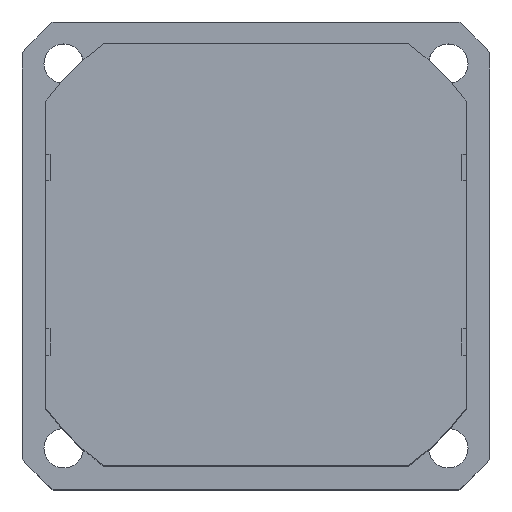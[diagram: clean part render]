
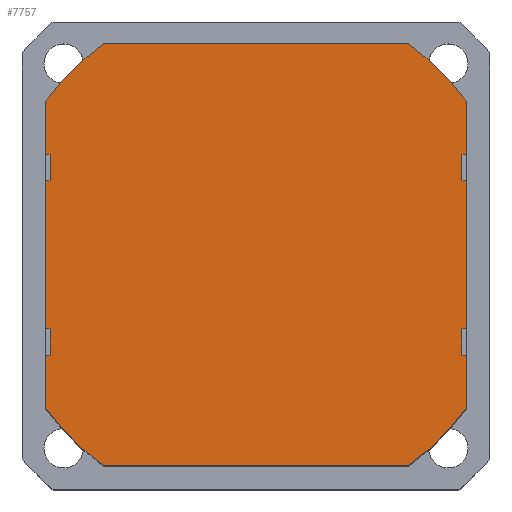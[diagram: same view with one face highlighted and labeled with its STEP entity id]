
A CAD part, top view. The second image highlights one B-rep face of the part: STEP entity #7757.
In plain terms, the highlighted planar face has unit normal (0, 0, 1).
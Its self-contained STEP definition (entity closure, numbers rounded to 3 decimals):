
#1864=CIRCLE('',#8362,79.);
#1865=CIRCLE('',#8363,79.);
#1866=CIRCLE('',#8364,79.);
#1867=CIRCLE('',#8365,79.);
#2377=VERTEX_POINT('',#11140);
#2378=VERTEX_POINT('',#11141);
#2379=VERTEX_POINT('',#11143);
#2380=VERTEX_POINT('',#11145);
#2381=VERTEX_POINT('',#11147);
#2382=VERTEX_POINT('',#11149);
#2383=VERTEX_POINT('',#11151);
#2384=VERTEX_POINT('',#11153);
#2385=VERTEX_POINT('',#11155);
#2386=VERTEX_POINT('',#11157);
#2387=VERTEX_POINT('',#11159);
#2388=VERTEX_POINT('',#11161);
#2389=VERTEX_POINT('',#11163);
#2390=VERTEX_POINT('',#11165);
#2391=VERTEX_POINT('',#11167);
#2392=VERTEX_POINT('',#11169);
#2393=VERTEX_POINT('',#11171);
#2394=VERTEX_POINT('',#11173);
#2395=VERTEX_POINT('',#11175);
#2396=VERTEX_POINT('',#11177);
#2397=VERTEX_POINT('',#11179);
#2398=VERTEX_POINT('',#11181);
#2399=VERTEX_POINT('',#11183);
#2400=VERTEX_POINT('',#11185);
#3121=LINE('',#11139,#9239);
#3122=LINE('',#11142,#9240);
#3123=LINE('',#11144,#9241);
#3124=LINE('',#11146,#9242);
#3125=LINE('',#11150,#9243);
#3126=LINE('',#11154,#9244);
#3127=LINE('',#11156,#9245);
#3128=LINE('',#11158,#9246);
#3129=LINE('',#11160,#9247);
#3130=LINE('',#11162,#9248);
#3131=LINE('',#11164,#9249);
#3132=LINE('',#11166,#9250);
#3133=LINE('',#11168,#9251);
#3134=LINE('',#11170,#9252);
#3135=LINE('',#11174,#9253);
#3136=LINE('',#11178,#9254);
#3137=LINE('',#11180,#9255);
#3138=LINE('',#11182,#9256);
#3139=LINE('',#11184,#9257);
#3140=LINE('',#11186,#9258);
#3771=EDGE_CURVE('',#2377,#2378,#3121,.T.);
#3772=EDGE_CURVE('',#2379,#2377,#3122,.T.);
#3773=EDGE_CURVE('',#2380,#2379,#3123,.T.);
#3774=EDGE_CURVE('',#2381,#2380,#3124,.T.);
#3775=EDGE_CURVE('',#2382,#2381,#1864,.T.);
#3776=EDGE_CURVE('',#2383,#2382,#3125,.T.);
#3777=EDGE_CURVE('',#2384,#2383,#1865,.T.);
#3778=EDGE_CURVE('',#2385,#2384,#3126,.T.);
#3779=EDGE_CURVE('',#2386,#2385,#3127,.T.);
#3780=EDGE_CURVE('',#2387,#2386,#3128,.T.);
#3781=EDGE_CURVE('',#2388,#2387,#3129,.T.);
#3782=EDGE_CURVE('',#2389,#2388,#3130,.T.);
#3783=EDGE_CURVE('',#2390,#2389,#3131,.T.);
#3784=EDGE_CURVE('',#2391,#2390,#3132,.T.);
#3785=EDGE_CURVE('',#2392,#2391,#3133,.T.);
#3786=EDGE_CURVE('',#2393,#2392,#3134,.T.);
#3787=EDGE_CURVE('',#2394,#2393,#1866,.T.);
#3788=EDGE_CURVE('',#2395,#2394,#3135,.T.);
#3789=EDGE_CURVE('',#2396,#2395,#1867,.T.);
#3790=EDGE_CURVE('',#2397,#2396,#3136,.T.);
#3791=EDGE_CURVE('',#2398,#2397,#3137,.T.);
#3792=EDGE_CURVE('',#2399,#2398,#3138,.T.);
#3793=EDGE_CURVE('',#2400,#2399,#3139,.T.);
#3794=EDGE_CURVE('',#2378,#2400,#3140,.T.);
#4983=ORIENTED_EDGE('',*,*,#3771,.F.);
#4984=ORIENTED_EDGE('',*,*,#3772,.F.);
#4985=ORIENTED_EDGE('',*,*,#3773,.F.);
#4986=ORIENTED_EDGE('',*,*,#3774,.F.);
#4987=ORIENTED_EDGE('',*,*,#3775,.F.);
#4988=ORIENTED_EDGE('',*,*,#3776,.F.);
#4989=ORIENTED_EDGE('',*,*,#3777,.F.);
#4990=ORIENTED_EDGE('',*,*,#3778,.F.);
#4991=ORIENTED_EDGE('',*,*,#3779,.F.);
#4992=ORIENTED_EDGE('',*,*,#3780,.F.);
#4993=ORIENTED_EDGE('',*,*,#3781,.F.);
#4994=ORIENTED_EDGE('',*,*,#3782,.F.);
#4995=ORIENTED_EDGE('',*,*,#3783,.F.);
#4996=ORIENTED_EDGE('',*,*,#3784,.F.);
#4997=ORIENTED_EDGE('',*,*,#3785,.F.);
#4998=ORIENTED_EDGE('',*,*,#3786,.F.);
#4999=ORIENTED_EDGE('',*,*,#3787,.F.);
#5000=ORIENTED_EDGE('',*,*,#3788,.F.);
#5001=ORIENTED_EDGE('',*,*,#3789,.F.);
#5002=ORIENTED_EDGE('',*,*,#3790,.F.);
#5003=ORIENTED_EDGE('',*,*,#3791,.F.);
#5004=ORIENTED_EDGE('',*,*,#3792,.F.);
#5005=ORIENTED_EDGE('',*,*,#3793,.F.);
#5006=ORIENTED_EDGE('',*,*,#3794,.F.);
#6665=EDGE_LOOP('',(#4983,#4984,#4985,#4986,#4987,#4988,#4989,#4990,#4991,
#4992,#4993,#4994,#4995,#4996,#4997,#4998,#4999,#5000,#5001,#5002,#5003,
#5004,#5005,#5006));
#7225=FACE_BOUND('',#6665,.T.);
#7757=ADVANCED_FACE('',(#7225),#9732,.T.);
#8361=AXIS2_PLACEMENT_3D('',#11138,#14128,$);
#8362=AXIS2_PLACEMENT_3D('',#11148,#14133,#14134);
#8363=AXIS2_PLACEMENT_3D('',#11152,#14136,#14137);
#8364=AXIS2_PLACEMENT_3D('',#11172,#14147,#14148);
#8365=AXIS2_PLACEMENT_3D('',#11176,#14150,#14151);
#9239=VECTOR('',#14129,1.);
#9240=VECTOR('',#14130,1.);
#9241=VECTOR('',#14131,1.);
#9242=VECTOR('',#14132,1.);
#9243=VECTOR('',#14135,1.);
#9244=VECTOR('',#14138,1.);
#9245=VECTOR('',#14139,1.);
#9246=VECTOR('',#14140,1.);
#9247=VECTOR('',#14141,1.);
#9248=VECTOR('',#14142,1.);
#9249=VECTOR('',#14143,1.);
#9250=VECTOR('',#14144,1.);
#9251=VECTOR('',#14145,1.);
#9252=VECTOR('',#14146,1.);
#9253=VECTOR('',#14149,1.);
#9254=VECTOR('',#14152,1.);
#9255=VECTOR('',#14153,1.);
#9256=VECTOR('',#14154,1.);
#9257=VECTOR('',#14155,1.);
#9258=VECTOR('',#14156,1.);
#9732=PLANE('',#8361);
#11138=CARTESIAN_POINT('',(0.,0.,
111.));
#11139=CARTESIAN_POINT('',(62.5,22.5,111.));
#11140=CARTESIAN_POINT('',(62.5,22.5,111.));
#11141=CARTESIAN_POINT('',(64.,22.5,111.));
#11142=CARTESIAN_POINT('',(62.5,30.5,111.));
#11143=CARTESIAN_POINT('',(62.5,30.5,111.));
#11144=CARTESIAN_POINT('',(64.,30.5,111.));
#11145=CARTESIAN_POINT('',(64.,30.5,111.));
#11146=CARTESIAN_POINT('',(64.,46.314,111.));
#11147=CARTESIAN_POINT('',(64.,46.314,111.));
#11148=CARTESIAN_POINT('',(0.,0.,111.));
#11149=CARTESIAN_POINT('',(46.314,64.,111.));
#11150=CARTESIAN_POINT('',(-46.314,64.,111.));
#11151=CARTESIAN_POINT('',(-46.314,64.,111.));
#11152=CARTESIAN_POINT('',(0.,0.,111.));
#11153=CARTESIAN_POINT('',(-64.,46.314,111.));
#11154=CARTESIAN_POINT('',(-64.,30.5,111.));
#11155=CARTESIAN_POINT('',(-64.,30.5,111.));
#11156=CARTESIAN_POINT('',(-62.5,30.5,111.));
#11157=CARTESIAN_POINT('',(-62.5,30.5,111.));
#11158=CARTESIAN_POINT('',(-62.5,22.5,111.));
#11159=CARTESIAN_POINT('',(-62.5,22.5,111.));
#11160=CARTESIAN_POINT('',(-64.,22.5,111.));
#11161=CARTESIAN_POINT('',(-64.,22.5,111.));
#11162=CARTESIAN_POINT('',(-64.,-22.5,111.));
#11163=CARTESIAN_POINT('',(-64.,-22.5,111.));
#11164=CARTESIAN_POINT('',(-62.5,-22.5,111.));
#11165=CARTESIAN_POINT('',(-62.5,-22.5,111.));
#11166=CARTESIAN_POINT('',(-62.5,-30.5,111.));
#11167=CARTESIAN_POINT('',(-62.5,-30.5,111.));
#11168=CARTESIAN_POINT('',(-64.,-30.5,111.));
#11169=CARTESIAN_POINT('',(-64.,-30.5,111.));
#11170=CARTESIAN_POINT('',(-64.,-46.314,111.));
#11171=CARTESIAN_POINT('',(-64.,-46.314,111.));
#11172=CARTESIAN_POINT('',(0.,0.,111.));
#11173=CARTESIAN_POINT('',(-46.314,-64.,111.));
#11174=CARTESIAN_POINT('',(46.314,-64.,111.));
#11175=CARTESIAN_POINT('',(46.314,-64.,111.));
#11176=CARTESIAN_POINT('',(0.,0.,111.));
#11177=CARTESIAN_POINT('',(64.,-46.314,111.));
#11178=CARTESIAN_POINT('',(64.,-30.5,111.));
#11179=CARTESIAN_POINT('',(64.,-30.5,111.));
#11180=CARTESIAN_POINT('',(62.5,-30.5,111.));
#11181=CARTESIAN_POINT('',(62.5,-30.5,111.));
#11182=CARTESIAN_POINT('',(62.5,-22.5,111.));
#11183=CARTESIAN_POINT('',(62.5,-22.5,111.));
#11184=CARTESIAN_POINT('',(64.,-22.5,111.));
#11185=CARTESIAN_POINT('',(64.,-22.5,111.));
#11186=CARTESIAN_POINT('',(64.,22.5,111.));
#14128=DIRECTION('',(0.,0.,1.));
#14129=DIRECTION('',(1.,0.,0.));
#14130=DIRECTION('',(0.,-1.,0.));
#14131=DIRECTION('',(-1.,0.,0.));
#14132=DIRECTION('',(0.,-1.,0.));
#14133=DIRECTION('',(0.,0.,-1.));
#14134=DIRECTION('',(79.,0.,0.));
#14135=DIRECTION('',(1.,0.,0.));
#14136=DIRECTION('',(0.,0.,-1.));
#14137=DIRECTION('',(79.,0.,0.));
#14138=DIRECTION('',(0.,1.,0.));
#14139=DIRECTION('',(-1.,0.,0.));
#14140=DIRECTION('',(0.,1.,0.));
#14141=DIRECTION('',(1.,0.,0.));
#14142=DIRECTION('',(0.,1.,0.));
#14143=DIRECTION('',(-1.,0.,0.));
#14144=DIRECTION('',(0.,1.,0.));
#14145=DIRECTION('',(1.,0.,0.));
#14146=DIRECTION('',(0.,1.,0.));
#14147=DIRECTION('',(0.,0.,-1.));
#14148=DIRECTION('',(79.,0.,0.));
#14149=DIRECTION('',(-1.,0.,0.));
#14150=DIRECTION('',(0.,0.,-1.));
#14151=DIRECTION('',(79.,0.,0.));
#14152=DIRECTION('',(0.,-1.,0.));
#14153=DIRECTION('',(1.,0.,0.));
#14154=DIRECTION('',(0.,-1.,0.));
#14155=DIRECTION('',(-1.,0.,0.));
#14156=DIRECTION('',(0.,-1.,0.));
